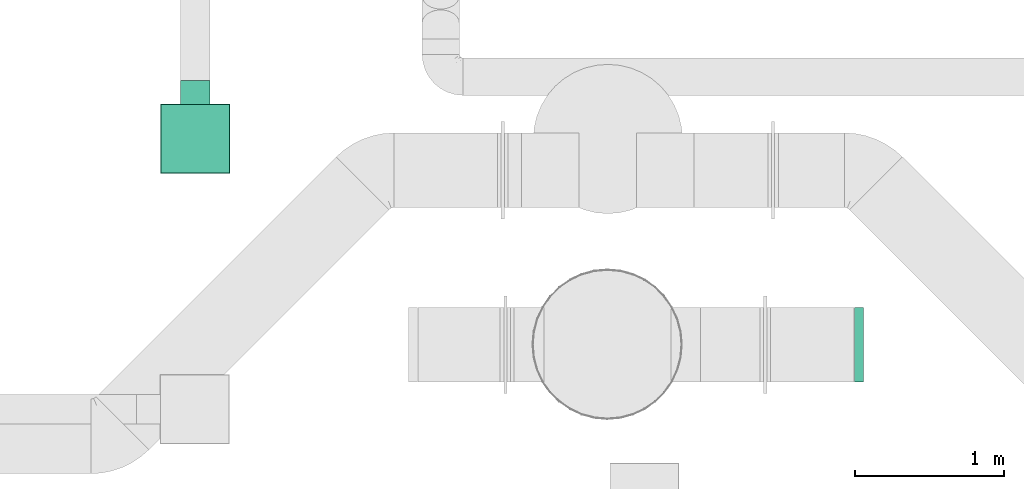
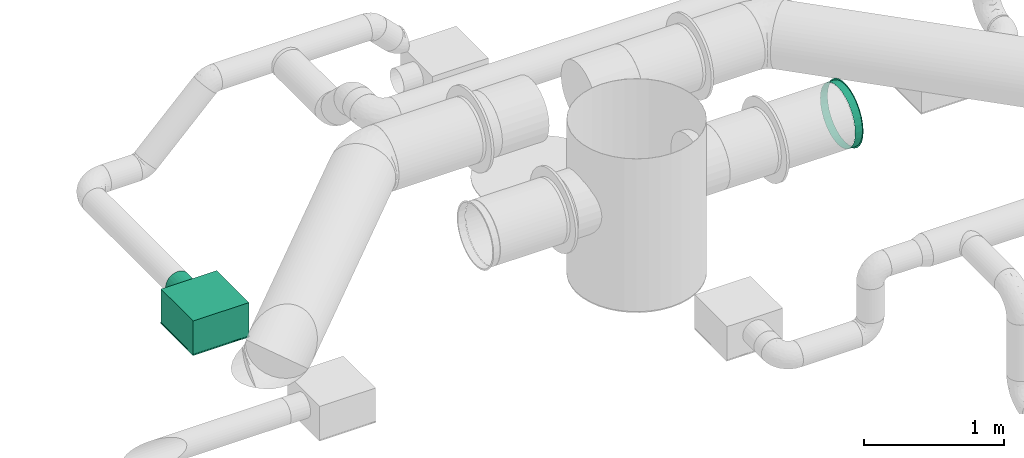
# One storey, part 10 of 31: 2 flow terminals.
"""IFC2X3 building model written with IfcOpenShell, lengths in millimetres."""

from ifc_helpers import new_model, entity, si_unit, converted_unit, derived_unit, direction, frame, origin_with_axes, place, context, subcontext, project, spatial, open_shell, surface_model, source, transform, mapped, type_object, element, save


model = new_model("IFC2X3")

# Units and contexts
model_context = context("Model", 3, precision=0.01, world=frame((0.0, 4.29681676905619e-09, 0.0)), true_north=direction((4.01073788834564e-13, 1.0)))
plan_context = context("Plan", 3, precision=0.01, world=frame((0.0, 4.29681676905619e-09, 0.0)), true_north=direction((4.01073788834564e-13, 1.0)))
body_context = subcontext(model_context, "Body", "Model", "MODEL_VIEW")
ifc_project = project(units=[converted_unit("PLANEANGLEUNIT", "DEGREE", entity("IfcPositiveLengthMeasure", 0.0174532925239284), si_unit("PLANEANGLEUNIT", "RADIAN"), dimensions=[0, 0, 0, 0, 0, 0, 0]), si_unit("AREAUNIT", "SQUARE_METRE"), si_unit("LENGTHUNIT", "METRE", prefix="MILLI"), si_unit("MASSUNIT", "GRAM", prefix="KILO"), si_unit("POWERUNIT", "WATT"), si_unit("PRESSUREUNIT", "PASCAL", prefix="KILO"), si_unit("FORCEUNIT", "NEWTON", prefix="KILO"), si_unit("ELECTRICVOLTAGEUNIT", "VOLT"), si_unit("ELECTRICCURRENTUNIT", "AMPERE"), si_unit("THERMODYNAMICTEMPERATUREUNIT", "DEGREE_CELSIUS"), si_unit("TIMEUNIT", "SECOND"), si_unit("VOLUMEUNIT", "CUBIC_METRE"), derived_unit("LINEARVELOCITYUNIT", [(si_unit("LENGTHUNIT", "METRE"), 1), (si_unit("TIMEUNIT", "SECOND"), -1)]), derived_unit("VOLUMETRICFLOWRATEUNIT", [(si_unit("VOLUMEUNIT", "CUBIC_METRE"), 1), (si_unit("TIMEUNIT", "SECOND"), -1)]), derived_unit("THERMALTRANSMITTANCEUNIT", [(si_unit("POWERUNIT", "WATT"), 1), (si_unit("THERMODYNAMICTEMPERATUREUNIT", "KELVIN"), -1), (si_unit("AREAUNIT", "SQUARE_METRE"), -1)]), derived_unit("SOUNDPRESSUREUNIT", [(si_unit("PRESSUREUNIT", "PASCAL"), 1)])], contexts=[model_context, plan_context])

# Site, building, storey
site_placement = place(None, frame((0.0, -4.29681676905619e-09, 0.0), z_axis=(0.0, 0.0, 1.0), x_axis=(1.0, 0.0, 0.0)))
site = spatial("IfcSite", under=ifc_project, at=site_placement, CompositionType="ELEMENT")
building_placement = place(site_placement, frame((0.0, 4.29681676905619e-09, 0.0), z_axis=(0.0, 0.0, 1.0), x_axis=(1.0, 0.0, 0.0)))
building = spatial("IfcBuilding", under=site, at=building_placement, Name="mc-building", CompositionType="ELEMENT")
storey_placement = place(building_placement, frame((0.0, 0.0, 210900.0), z_axis=(0.0, 0.0, 1.0), x_axis=(1.0, 0.0, 0.0)))
storey = spatial("IfcBuildingStorey", under=building, at=storey_placement, Name="Nivå F", CompositionType="ELEMENT", Elevation=210900.0)

# Flow terminals
air_terminal_type_1 = type_object("IfcAirTerminalType", Name="NS19-H-S-2-200 - 4-way", PredefinedType="NOTDEFINED")
shared_shape_1 = source(origin_with_axes(), body_context, "Body", "SurfaceModel", [
    surface_model("IfcShellBasedSurfaceModel", [(-231.99999, 231.99999, 0.0), (-231.99999, -231.99999, 0.0), (231.99999, -231.99999, 0.0), (231.99999, 231.99999, 0.0), (231.99999, 231.99999, -10.0), (231.99999, -231.99999, -10.0), (-231.99999, -231.99999, -10.0), (-231.99999, 231.99999, -10.0), (-230.0, 230.0, 289.99999), (-230.0, -230.0, 289.99999), (230.0, -230.0, 289.99999), (230.0, 230.0, 289.99999), (230.0, 230.0, 0.0), (230.0, -230.0, 0.0), (-230.0, -230.0, 0.0), (-230.0, 230.0, 0.0), (-230.0, 50.0, 78.39746), (-230.0, 70.71068, 94.28932), (-230.0, 49.9, 78.57067), (-230.0, 25.83014, 68.6006), (-230.0, 0.0, 65.2), (-230.0, 25.8819, 68.40742), (-230.0, 0.0, 65.0), (-230.0, 70.56926, 94.43075), (-230.0, 96.59259, 139.1181), (-230.0, 99.8, 164.99999), (-230.0, 96.39939, 139.16986), (-230.0, 100.0, 164.99999), (-230.0, 86.60254, 115.0), (-230.0, 86.42934, 115.1), (-230.0, -25.83014, 68.6006), (-230.0, -25.8819, 68.40742), (-230.0, -49.9, 78.57067), (-230.0, -70.71068, 94.28932), (-230.0, -50.0, 78.39746), (-230.0, -70.56926, 94.43075), (-230.0, -86.42934, 115.1), (-230.0, -86.60254, 115.0), (-230.0, -96.39939, 139.16986), (-230.0, -96.59259, 139.1181), (-230.0, -99.8, 164.99999), (-230.0, -100.0, 164.99999), (-230.0, 96.59259, 190.8819), (-230.0, 96.39939, 190.83014), (-230.0, 86.42934, 214.9), (-230.0, 86.60254, 214.99999), (-230.0, 70.56926, 235.56925), (-230.0, 70.71068, 235.71069), (-230.0, 50.0, 251.60254), (-230.0, 49.9, 251.42933), (-230.0, 25.83014, 261.3994), (-230.0, 25.8819, 261.59259), (-230.0, 0.0, 264.80001), (-230.0, 0.0, 264.99999), (-230.0, -86.60254, 214.99999), (-230.0, -86.42934, 214.9), (-230.0, -70.71068, 235.71069), (-230.0, -70.56926, 235.56925), (-230.0, -96.59259, 190.8819), (-230.0, -96.39939, 190.83014), (-230.0, -25.83014, 261.3994), (-230.0, -25.8819, 261.59259), (-230.0, -49.9, 251.42933), (-230.0, -50.0, 251.60254), (-390.0, 50.0, 251.60254), (-390.0, 70.71068, 235.71069), (-390.0, 49.9, 251.42933), (-390.0, 25.83014, 261.3994), (-390.0, 0.0, 264.80001), (-390.0, 25.8819, 261.59259), (-390.0, 0.0, 264.99999), (-390.0, 70.56926, 235.56925), (-390.0, 96.59259, 190.8819), (-390.0, 99.8, 164.99999), (-390.0, 96.39939, 190.83014), (-390.0, 100.0, 164.99999), (-390.0, 86.60254, 214.99999), (-390.0, 86.42934, 214.9), (-390.0, -25.83014, 261.3994), (-390.0, -25.8819, 261.59259), (-390.0, -49.9, 251.42933), (-390.0, -70.71068, 235.71069), (-390.0, -50.0, 251.60254), (-390.0, -70.56926, 235.56925), (-390.0, -86.42934, 214.9), (-390.0, -86.60254, 214.99999), (-390.0, -96.39939, 190.83014), (-390.0, -96.59259, 190.8819), (-390.0, -99.8, 164.99999), (-390.0, -100.0, 164.99999), (-390.0, 96.59259, 139.1181), (-390.0, 96.39939, 139.16986), (-390.0, 86.42934, 115.1), (-390.0, 86.60254, 115.0), (-390.0, 70.56926, 94.43075), (-390.0, 70.71068, 94.28932), (-390.0, 50.0, 78.39746), (-390.0, 49.9, 78.57067), (-390.0, 25.83014, 68.6006), (-390.0, 25.8819, 68.40742), (-390.0, 0.0, 65.2), (-390.0, 0.0, 65.0), (-390.0, -86.60254, 115.0), (-390.0, -86.42934, 115.1), (-390.0, -70.71068, 94.28932), (-390.0, -70.56926, 94.43075), (-390.0, -96.59259, 139.1181), (-390.0, -96.39939, 139.16986), (-390.0, -25.83014, 68.6006), (-390.0, -25.8819, 68.40742), (-390.0, -49.9, 78.57067), (-390.0, -50.0, 78.39746)], [open_shell([[[0, 1, 2]], [[2, 3, 0]], [[4, 5, 6]], [[6, 7, 4]], [[2, 1, 6]], [[6, 5, 2]], [[3, 2, 5]], [[5, 4, 3]], [[0, 3, 4]], [[4, 7, 0]], [[1, 0, 7]], [[7, 6, 1]], [[8, 9, 10]], [[10, 11, 8]], [[12, 13, 14]], [[14, 15, 12]], [[10, 9, 13]], [[14, 13, 9]], [[11, 10, 12]], [[13, 12, 10]], [[8, 11, 15]], [[12, 15, 11]], [[9, 8, 14]], [[15, 14, 8]], [[16, 17, 18]], [[16, 18, 19]], [[20, 21, 19]], [[21, 20, 22]], [[19, 21, 16]], [[18, 17, 23]], [[24, 25, 26]], [[25, 24, 27]], [[24, 26, 28]], [[23, 28, 29]], [[28, 23, 17]], [[29, 28, 26]], [[22, 30, 31]], [[31, 30, 32]], [[33, 34, 35]], [[32, 34, 31]], [[32, 35, 34]], [[22, 20, 30]], [[36, 37, 33]], [[37, 36, 38]], [[36, 33, 35]], [[39, 38, 40]], [[38, 39, 37]], [[39, 40, 41]], [[27, 42, 43]], [[43, 42, 44]], [[44, 45, 46]], [[45, 44, 42]], [[46, 45, 47]], [[47, 48, 49]], [[49, 48, 50]], [[50, 51, 52]], [[51, 50, 48]], [[52, 51, 53]], [[49, 46, 47]], [[54, 55, 56]], [[56, 55, 57]], [[55, 54, 58]], [[41, 59, 58]], [[58, 59, 55]], [[41, 40, 59]], [[60, 53, 61]], [[60, 61, 62]], [[57, 63, 56]], [[57, 62, 63]], [[63, 62, 61]], [[52, 53, 60]], [[43, 25, 27]], [[64, 65, 66]], [[64, 66, 67]], [[68, 69, 67]], [[69, 68, 70]], [[67, 69, 64]], [[66, 65, 71]], [[72, 73, 74]], [[73, 72, 75]], [[72, 74, 76]], [[71, 76, 77]], [[76, 71, 65]], [[77, 76, 74]], [[70, 78, 79]], [[79, 78, 80]], [[81, 82, 83]], [[80, 82, 79]], [[80, 83, 82]], [[70, 68, 78]], [[84, 85, 81]], [[85, 84, 86]], [[84, 81, 83]], [[87, 86, 88]], [[86, 87, 85]], [[87, 88, 89]], [[75, 90, 91]], [[91, 90, 92]], [[92, 93, 94]], [[93, 92, 90]], [[94, 93, 95]], [[95, 96, 97]], [[97, 96, 98]], [[98, 99, 100]], [[99, 98, 96]], [[100, 99, 101]], [[97, 94, 95]], [[102, 103, 104]], [[104, 103, 105]], [[103, 102, 106]], [[89, 107, 106]], [[106, 107, 103]], [[89, 88, 107]], [[108, 101, 109]], [[108, 109, 110]], [[105, 111, 104]], [[105, 110, 111]], [[111, 110, 109]], [[100, 101, 108]], [[91, 73, 75]], [[39, 106, 102]], [[104, 37, 102]], [[34, 111, 109]], [[104, 111, 33]], [[31, 109, 101]], [[106, 41, 89]], [[106, 39, 41]], [[102, 37, 39]], [[104, 33, 37]], [[34, 33, 111]], [[109, 31, 34]], [[101, 22, 31]], [[21, 99, 96]], [[95, 16, 96]], [[28, 93, 90]], [[95, 93, 17]], [[24, 90, 75]], [[99, 21, 22]], [[96, 16, 21]], [[95, 17, 16]], [[93, 28, 17]], [[24, 28, 90]], [[75, 27, 24]], [[99, 22, 101]], [[75, 72, 42]], [[48, 64, 69]], [[64, 47, 65]], [[51, 69, 70]], [[72, 45, 42]], [[42, 27, 75]], [[76, 47, 45]], [[76, 65, 47]], [[47, 64, 48]], [[69, 51, 48]], [[76, 45, 72]], [[70, 53, 51]], [[61, 79, 82]], [[81, 63, 82]], [[54, 85, 87]], [[81, 85, 56]], [[58, 87, 89]], [[79, 61, 53]], [[82, 63, 61]], [[81, 56, 63]], [[85, 54, 56]], [[58, 54, 87]], [[89, 41, 58]], [[79, 53, 70]], [[103, 107, 38]], [[103, 36, 105]], [[108, 110, 32]], [[35, 110, 105]], [[100, 108, 30]], [[88, 40, 107]], [[40, 38, 107]], [[38, 36, 103]], [[36, 35, 105]], [[110, 35, 32]], [[32, 30, 108]], [[30, 20, 100]], [[97, 98, 19]], [[97, 18, 94]], [[91, 92, 29]], [[23, 92, 94]], [[73, 91, 26]], [[20, 19, 98]], [[19, 18, 97]], [[18, 23, 94]], [[23, 29, 92]], [[91, 29, 26]], [[26, 25, 73]], [[100, 20, 98]], [[43, 74, 73]], [[67, 66, 49]], [[71, 46, 66]], [[68, 67, 50]], [[43, 44, 74]], [[73, 25, 43]], [[44, 46, 77]], [[46, 71, 77]], [[49, 66, 46]], [[49, 50, 67]], [[74, 44, 77]], [[50, 52, 68]], [[80, 78, 60]], [[80, 62, 83]], [[86, 84, 55]], [[57, 84, 83]], [[88, 86, 59]], [[52, 60, 78]], [[60, 62, 80]], [[62, 57, 83]], [[57, 55, 84]], [[86, 55, 59]], [[59, 40, 88]], [[68, 52, 78]]])]),
])
flow_terminal_1_placement = place(storey_placement, frame((717200.44584, 440425.23198, 2800.0), z_axis=(0.0, 0.0, 1.0), x_axis=(0.0, -1.0, 0.0)))
element("IfcFlowTerminal", 1, at=flow_terminal_1_placement, inside=storey, type_object=air_terminal_type_1, Name="NS19-H-S-2-200 - 4-way", context=body_context, shape_type="MappedRepresentation", body=[
    mapped(shared_shape_1, transform((0.0, 0.0, 0.0), scale=1.0)),
])
air_terminal_type_2 = type_object("IfcAirTerminalType", Name="EKO-NR-500-1-3", PredefinedType="NOTDEFINED")
shared_shape_2 = source(origin_with_axes(), body_context, "Body", "SurfaceModel", [
    surface_model("IfcShellBasedSurfaceModel", [(60.1, -131.25, 227.33167), (60.1, -175.64678, 195.07552), (60.1, -155.87244, 195.45787), (60.1, -195.45787, 155.87244), (60.1, -108.47093, 225.24221), (60.1, -27.43872, 261.06199), (60.1, -81.11696, 249.65233), (60.1, -55.63023, 243.73198), (60.1, 0.0, 250.0), (60.1, -243.73198, 55.63023), (60.1, -256.76374, 54.57682), (60.1, -250.0, 0.0), (60.1, -239.80568, 106.76836), (60.1, -262.5, 0.0), (60.1, -212.36696, 154.29363), (60.1, -225.24221, 108.47093), (60.1, 27.43872, 261.06199), (60.1, 55.63023, 243.73198), (60.1, 81.11696, 249.65233), (60.1, 131.25, 227.33167), (60.1, 108.47093, 225.24221), (60.1, 155.87244, 195.45787), (60.1, 175.64678, 195.07552), (60.1, 195.45787, 155.87244), (60.1, 212.36696, 154.29363), (60.1, 225.24221, 108.47093), (60.1, 239.80568, 106.76836), (60.1, 243.73198, 55.63023), (60.1, 256.76374, 54.57682), (60.1, 250.0, 0.0), (60.1, 262.5, 0.0), (60.1, -256.76374, -54.57682), (60.1, -243.73198, -55.63023), (60.1, -239.80568, -106.76836), (60.1, -225.24221, -108.47093), (60.1, -212.36696, -154.29363), (60.1, -195.45787, -155.87244), (60.1, -175.64678, -195.07552), (60.1, -131.25, -227.33167), (60.1, -155.87244, -195.45787), (60.1, -108.47093, -225.24221), (60.1, -55.63023, -243.73198), (60.1, -81.11696, -249.65233), (60.1, -27.43872, -261.06199), (60.1, 0.0, -250.0), (60.1, 225.24221, -108.47093), (60.1, 195.45787, -155.87244), (60.1, 212.36696, -154.29363), (60.1, 175.64678, -195.07552), (60.1, 239.80568, -106.76836), (60.1, 256.76374, -54.57682), (60.1, 243.73198, -55.63023), (60.1, 55.63023, -243.73198), (60.1, 81.11696, -249.65233), (60.1, 108.47093, -225.24221), (60.1, 27.43872, -261.06199), (60.1, 155.87244, -195.45787), (60.1, 131.25, -227.33167), (59.9, -131.25, -227.33167), (59.9, -175.64678, -195.07552), (59.9, -155.87244, -195.45787), (59.9, -195.45787, -155.87244), (59.9, -108.47093, -225.24221), (59.9, -27.43872, -261.06199), (59.9, -81.11696, -249.65233), (59.9, -55.63023, -243.73198), (59.9, 0.0, -250.0), (59.9, -243.73198, -55.63023), (59.9, -256.76374, -54.57682), (59.9, -250.0, 0.0), (59.9, -239.80568, -106.76836), (59.9, -262.5, 0.0), (59.9, -212.36696, -154.29363), (59.9, -225.24221, -108.47093), (59.9, 27.43872, -261.06199), (59.9, 55.63023, -243.73198), (59.9, 81.11696, -249.65233), (59.9, 131.25, -227.33167), (59.9, 108.47093, -225.24221), (59.9, 155.87244, -195.45787), (59.9, 175.64678, -195.07552), (59.9, 195.45787, -155.87244), (59.9, 212.36696, -154.29363), (59.9, 225.24221, -108.47093), (59.9, 239.80568, -106.76836), (59.9, 243.73198, -55.63023), (59.9, 256.76374, -54.57682), (59.9, 250.0, 0.0), (59.9, 262.5, 0.0), (59.9, -256.76374, 54.57682), (59.9, -243.73198, 55.63023), (59.9, -239.80568, 106.76836), (59.9, -225.24221, 108.47093), (59.9, -212.36696, 154.29363), (59.9, -195.45787, 155.87244), (59.9, -175.64678, 195.07552), (59.9, -131.25, 227.33167), (59.9, -155.87244, 195.45787), (59.9, -108.47093, 225.24221), (59.9, -55.63023, 243.73198), (59.9, -81.11696, 249.65233), (59.9, -27.43872, 261.06199), (59.9, 0.0, 250.0), (59.9, 225.24221, 108.47093), (59.9, 195.45787, 155.87244), (59.9, 212.36696, 154.29363), (59.9, 175.64678, 195.07552), (59.9, 239.80568, 106.76836), (59.9, 256.76374, 54.57682), (59.9, 243.73198, 55.63023), (59.9, 55.63023, 243.73198), (59.9, 81.11696, 249.65233), (59.9, 108.47093, 225.24221), (59.9, 27.43872, 261.06199), (59.9, 155.87244, 195.45787), (59.9, 131.25, 227.33167), (60.0, 108.38415, -225.06203), (60.0, 108.47093, -225.24221), (60.0, 155.87244, -195.45787), (60.0, 155.74776, -195.30151), (60.0, 195.45787, -155.87244), (60.0, 0.0, -249.8), (60.0, 55.63023, -243.73198), (60.0, 55.58573, -243.53699), (60.0, 0.0, -250.0), (60.0, 243.73198, -55.63023), (60.0, 249.8, 0.0), (60.0, 243.53699, -55.58573), (60.0, 250.0, 0.0), (60.0, 225.24221, -108.47093), (60.0, 195.30151, -155.74776), (60.0, 225.06203, -108.38415), (60.0, -55.58573, -243.53699), (60.0, -55.63023, -243.73198), (60.0, -108.38415, -225.06203), (60.0, -108.47093, -225.24221), (60.0, -155.74776, -195.30151), (60.0, -155.87244, -195.45787), (60.0, -195.30151, -155.74776), (60.0, -195.45787, -155.87244), (60.0, -225.06203, -108.38415), (60.0, -225.24221, -108.47093), (60.0, -243.73198, -55.63023), (60.0, -243.53699, -55.58573), (60.0, -249.8, 0.0), (60.0, -250.0, 0.0), (60.0, 243.73198, 55.63023), (60.0, 243.53699, 55.58573), (60.0, 225.06203, 108.38415), (60.0, 225.24221, 108.47093), (60.0, 195.30151, 155.74776), (60.0, 195.45787, 155.87244), (60.0, 155.74776, 195.30151), (60.0, 108.38415, 225.06203), (60.0, 155.87244, 195.45787), (60.0, 108.47093, 225.24221), (60.0, 55.58573, 243.53699), (60.0, 55.63023, 243.73198), (60.0, 0.0, 249.8), (60.0, 0.0, 250.0), (60.0, -225.24221, 108.47093), (60.0, -225.06203, 108.38415), (60.0, -195.30151, 155.74776), (60.0, -195.45787, 155.87244), (60.0, -155.87244, 195.45787), (60.0, -243.53699, 55.58573), (60.0, -243.73198, 55.63023), (60.0, -55.58573, 243.53699), (60.0, -55.63023, 243.73198), (60.0, -108.38415, 225.06203), (60.0, -155.74776, 195.30151), (60.0, -108.47093, 225.24221), (0.0, 108.38415, 225.06203), (0.0, 108.47093, 225.24221), (0.0, 155.87244, 195.45787), (0.0, 155.74776, 195.30151), (0.0, 195.45787, 155.87244), (0.0, 0.0, 249.8), (0.0, 55.63023, 243.73198), (0.0, 55.58573, 243.53699), (0.0, 0.0, 250.0), (0.0, 243.73198, 55.63023), (0.0, 249.8, 0.0), (0.0, 243.53699, 55.58573), (0.0, 250.0, 0.0), (0.0, 225.24221, 108.47093), (0.0, 195.30151, 155.74776), (0.0, 225.06203, 108.38415), (0.0, -55.58573, 243.53699), (0.0, -55.63023, 243.73198), (0.0, -108.38415, 225.06203), (0.0, -108.47093, 225.24221), (0.0, -155.74776, 195.30151), (0.0, -155.87244, 195.45787), (0.0, -195.30151, 155.74776), (0.0, -195.45787, 155.87244), (0.0, -225.06203, 108.38415), (0.0, -225.24221, 108.47093), (0.0, -243.73198, 55.63023), (0.0, -243.53699, 55.58573), (0.0, -249.8, 0.0), (0.0, -250.0, 0.0), (0.0, 243.73198, -55.63023), (0.0, 243.53699, -55.58573), (0.0, 225.06203, -108.38415), (0.0, 225.24221, -108.47093), (0.0, 195.30151, -155.74776), (0.0, 195.45787, -155.87244), (0.0, 155.74776, -195.30151), (0.0, 108.38415, -225.06203), (0.0, 155.87244, -195.45787), (0.0, 108.47093, -225.24221), (0.0, 55.58573, -243.53699), (0.0, 55.63023, -243.73198), (0.0, 0.0, -249.8), (0.0, 0.0, -250.0), (0.0, -225.24221, -108.47093), (0.0, -225.06203, -108.38415), (0.0, -195.30151, -155.74776), (0.0, -195.45787, -155.87244), (0.0, -155.87244, -195.45787), (0.0, -243.53699, -55.58573), (0.0, -243.73198, -55.63023), (0.0, -55.58573, -243.53699), (0.0, -55.63023, -243.73198), (0.0, -108.38415, -225.06203), (0.0, -155.74776, -195.30151), (0.0, -108.47093, -225.24221)], [open_shell([[[0, 1, 2]], [[2, 1, 3]], [[0, 2, 4]], [[5, 6, 7]], [[4, 7, 6]], [[6, 0, 4]], [[8, 5, 7]], [[9, 10, 11]], [[10, 9, 12]], [[11, 10, 13]], [[3, 14, 15]], [[14, 3, 1]], [[15, 12, 9]], [[12, 15, 14]], [[16, 8, 17]], [[8, 16, 5]], [[16, 17, 18]], [[19, 18, 20]], [[20, 21, 19]], [[18, 17, 20]], [[19, 21, 22]], [[22, 23, 24]], [[22, 21, 23]], [[24, 25, 26]], [[25, 24, 23]], [[26, 27, 28]], [[27, 26, 25]], [[28, 29, 30]], [[29, 28, 27]], [[31, 32, 11]], [[32, 31, 33]], [[33, 34, 32]], [[34, 33, 35]], [[35, 36, 34]], [[36, 35, 37]], [[37, 38, 39]], [[39, 38, 40]], [[37, 39, 36]], [[41, 40, 42]], [[42, 43, 41]], [[40, 38, 42]], [[44, 41, 43]], [[45, 46, 47]], [[47, 46, 48]], [[45, 47, 49]], [[30, 29, 50]], [[51, 49, 50]], [[49, 51, 45]], [[29, 51, 50]], [[52, 53, 54]], [[53, 52, 55]], [[44, 55, 52]], [[55, 44, 43]], [[48, 56, 57]], [[56, 48, 46]], [[54, 57, 56]], [[57, 54, 53]], [[11, 13, 31]], [[58, 59, 60]], [[60, 59, 61]], [[58, 60, 62]], [[63, 64, 65]], [[62, 65, 64]], [[64, 58, 62]], [[66, 63, 65]], [[67, 68, 69]], [[68, 67, 70]], [[69, 68, 71]], [[61, 72, 73]], [[72, 61, 59]], [[73, 70, 67]], [[70, 73, 72]], [[74, 66, 75]], [[66, 74, 63]], [[74, 75, 76]], [[77, 76, 78]], [[78, 79, 77]], [[76, 75, 78]], [[77, 79, 80]], [[80, 81, 82]], [[80, 79, 81]], [[82, 83, 84]], [[83, 82, 81]], [[84, 85, 86]], [[85, 84, 83]], [[86, 87, 88]], [[87, 86, 85]], [[89, 90, 69]], [[90, 89, 91]], [[91, 92, 90]], [[92, 91, 93]], [[93, 94, 92]], [[94, 93, 95]], [[95, 96, 97]], [[97, 96, 98]], [[95, 97, 94]], [[99, 98, 100]], [[100, 101, 99]], [[98, 96, 100]], [[102, 99, 101]], [[103, 104, 105]], [[105, 104, 106]], [[103, 105, 107]], [[88, 87, 108]], [[109, 107, 108]], [[107, 109, 103]], [[87, 109, 108]], [[110, 111, 112]], [[111, 110, 113]], [[102, 113, 110]], [[113, 102, 101]], [[106, 114, 115]], [[114, 106, 104]], [[112, 115, 114]], [[115, 112, 111]], [[69, 71, 89]], [[11, 69, 9]], [[9, 90, 15]], [[2, 3, 94]], [[97, 4, 2]], [[92, 3, 15]], [[4, 98, 7]], [[3, 92, 94]], [[15, 90, 92]], [[9, 69, 90]], [[102, 8, 99]], [[7, 98, 99]], [[98, 4, 97]], [[2, 94, 97]], [[8, 7, 99]], [[112, 21, 20]], [[110, 20, 17]], [[109, 27, 25]], [[25, 23, 103]], [[104, 23, 21]], [[29, 27, 87]], [[114, 21, 112]], [[110, 17, 102]], [[112, 20, 110]], [[114, 104, 21]], [[104, 103, 23]], [[25, 103, 109]], [[109, 87, 27]], [[8, 102, 17]], [[29, 87, 51]], [[51, 85, 45]], [[56, 46, 81]], [[79, 54, 56]], [[83, 46, 45]], [[54, 78, 52]], [[46, 83, 81]], [[45, 85, 83]], [[51, 87, 85]], [[66, 44, 75]], [[52, 78, 75]], [[78, 54, 79]], [[56, 81, 79]], [[44, 52, 75]], [[41, 62, 40]], [[40, 60, 39]], [[67, 32, 34]], [[36, 73, 34]], [[36, 39, 61]], [[11, 32, 69]], [[65, 44, 66]], [[41, 65, 62]], [[40, 62, 60]], [[60, 61, 39]], [[61, 73, 36]], [[34, 73, 67]], [[67, 69, 32]], [[41, 44, 65]], [[68, 31, 71]], [[33, 68, 70]], [[70, 72, 35]], [[38, 59, 58]], [[58, 64, 42]], [[72, 59, 37]], [[64, 63, 43]], [[35, 33, 70]], [[33, 31, 68]], [[31, 13, 71]], [[42, 38, 58]], [[37, 59, 38]], [[37, 35, 72]], [[42, 64, 43]], [[63, 55, 43]], [[57, 76, 77]], [[77, 80, 57]], [[74, 76, 53]], [[84, 86, 49]], [[47, 82, 84]], [[48, 80, 82]], [[88, 30, 86]], [[53, 76, 57]], [[80, 48, 57]], [[53, 55, 74]], [[82, 47, 48]], [[84, 49, 47]], [[50, 49, 86]], [[30, 50, 86]], [[74, 55, 63]], [[108, 28, 88]], [[26, 108, 107]], [[107, 105, 24]], [[19, 106, 115]], [[115, 111, 18]], [[105, 106, 22]], [[111, 113, 16]], [[24, 26, 107]], [[26, 28, 108]], [[28, 30, 88]], [[18, 19, 115]], [[22, 106, 19]], [[22, 24, 105]], [[18, 111, 16]], [[113, 101, 16]], [[100, 96, 6]], [[100, 6, 101]], [[95, 0, 96]], [[91, 89, 12]], [[14, 93, 91]], [[93, 1, 95]], [[10, 89, 71]], [[95, 1, 0]], [[0, 6, 96]], [[5, 101, 6]], [[14, 1, 93]], [[91, 12, 14]], [[10, 12, 89]], [[71, 13, 10]], [[101, 5, 16]], [[116, 117, 118]], [[119, 118, 120]], [[116, 118, 119]], [[121, 122, 123]], [[122, 121, 124]], [[123, 122, 117]], [[117, 116, 123]], [[125, 126, 127]], [[126, 125, 128]], [[125, 127, 129]], [[120, 130, 119]], [[130, 120, 131]], [[129, 131, 120]], [[131, 129, 127]], [[124, 132, 133]], [[133, 132, 134]], [[135, 134, 136]], [[134, 135, 133]], [[137, 136, 138]], [[136, 137, 135]], [[124, 121, 132]], [[139, 138, 140]], [[138, 139, 137]], [[139, 140, 141]], [[142, 141, 143]], [[143, 144, 142]], [[143, 141, 140]], [[142, 144, 145]], [[128, 146, 147]], [[147, 146, 148]], [[148, 149, 150]], [[149, 148, 146]], [[150, 151, 152]], [[151, 150, 149]], [[153, 152, 154]], [[154, 152, 151]], [[153, 154, 155]], [[153, 155, 156]], [[157, 158, 156]], [[158, 157, 159]], [[155, 157, 156]], [[160, 161, 162]], [[163, 162, 164]], [[160, 162, 163]], [[145, 165, 166]], [[166, 165, 161]], [[160, 166, 161]], [[145, 144, 165]], [[167, 159, 168]], [[167, 168, 169]], [[170, 164, 162]], [[164, 170, 171]], [[169, 171, 170]], [[171, 169, 168]], [[158, 159, 167]], [[147, 126, 128]], [[172, 173, 174]], [[175, 174, 176]], [[172, 174, 175]], [[177, 178, 179]], [[178, 177, 180]], [[179, 178, 173]], [[173, 172, 179]], [[181, 182, 183]], [[182, 181, 184]], [[181, 183, 185]], [[176, 186, 175]], [[186, 176, 187]], [[185, 187, 176]], [[187, 185, 183]], [[180, 188, 189]], [[189, 188, 190]], [[191, 190, 192]], [[190, 191, 189]], [[193, 192, 194]], [[192, 193, 191]], [[180, 177, 188]], [[195, 194, 196]], [[194, 195, 193]], [[195, 196, 197]], [[198, 197, 199]], [[199, 200, 198]], [[199, 197, 196]], [[198, 200, 201]], [[184, 202, 203]], [[203, 202, 204]], [[204, 205, 206]], [[205, 204, 202]], [[206, 207, 208]], [[207, 206, 205]], [[209, 208, 210]], [[210, 208, 207]], [[209, 210, 211]], [[209, 211, 212]], [[213, 214, 212]], [[214, 213, 215]], [[211, 213, 212]], [[216, 217, 218]], [[219, 218, 220]], [[216, 218, 219]], [[201, 221, 222]], [[222, 221, 217]], [[216, 222, 217]], [[201, 200, 221]], [[223, 215, 224]], [[223, 224, 225]], [[226, 220, 218]], [[220, 226, 227]], [[225, 227, 226]], [[227, 225, 224]], [[214, 215, 223]], [[203, 182, 184]], [[222, 142, 201]], [[216, 141, 222]], [[137, 219, 220]], [[220, 227, 135]], [[216, 219, 139]], [[224, 133, 227]], [[139, 141, 216]], [[141, 142, 222]], [[142, 145, 201]], [[133, 135, 227]], [[137, 220, 135]], [[137, 139, 219]], [[133, 224, 124]], [[224, 215, 124]], [[215, 213, 122]], [[205, 202, 129]], [[120, 207, 205]], [[210, 207, 118]], [[125, 202, 184]], [[117, 211, 118]], [[211, 117, 122]], [[210, 118, 211]], [[211, 122, 213]], [[207, 120, 118]], [[205, 129, 120]], [[125, 129, 202]], [[184, 128, 125]], [[215, 122, 124]], [[181, 146, 184]], [[185, 149, 181]], [[154, 176, 174]], [[174, 173, 155]], [[185, 176, 151]], [[178, 157, 173]], [[151, 149, 185]], [[149, 146, 181]], [[146, 128, 184]], [[157, 155, 173]], [[154, 174, 155]], [[154, 151, 176]], [[157, 178, 159]], [[178, 180, 159]], [[171, 191, 193]], [[197, 198, 160]], [[163, 195, 197]], [[164, 193, 195]], [[201, 166, 198]], [[168, 159, 189]], [[189, 191, 168]], [[168, 191, 171]], [[164, 171, 193]], [[195, 163, 164]], [[197, 160, 163]], [[166, 160, 198]], [[201, 145, 166]], [[189, 159, 180]], [[200, 143, 221]], [[221, 140, 217]], [[226, 218, 136]], [[134, 225, 226]], [[138, 218, 217]], [[225, 132, 223]], [[217, 140, 138]], [[221, 143, 140]], [[200, 144, 143]], [[225, 134, 132]], [[134, 226, 136]], [[218, 138, 136]], [[121, 223, 132]], [[121, 214, 223]], [[123, 212, 214]], [[131, 203, 204]], [[204, 206, 130]], [[119, 206, 208]], [[182, 203, 127]], [[119, 209, 116]], [[212, 123, 116]], [[209, 119, 208]], [[209, 212, 116]], [[119, 130, 206]], [[130, 131, 204]], [[203, 131, 127]], [[127, 126, 182]], [[121, 123, 214]], [[182, 147, 183]], [[183, 148, 187]], [[175, 186, 152]], [[153, 172, 175]], [[150, 186, 187]], [[172, 156, 179]], [[187, 148, 150]], [[183, 147, 148]], [[182, 126, 147]], [[172, 153, 156]], [[153, 175, 152]], [[186, 150, 152]], [[158, 179, 156]], [[158, 177, 179]], [[192, 190, 169]], [[161, 199, 196]], [[196, 194, 162]], [[194, 192, 170]], [[199, 165, 200]], [[188, 158, 167]], [[167, 190, 188]], [[169, 190, 167]], [[192, 169, 170]], [[170, 162, 194]], [[162, 161, 196]], [[199, 161, 165]], [[165, 144, 200]], [[177, 158, 188]]])]),
])
flow_terminal_2_placement = place(storey_placement, frame((721617.13284, 439045.81002, 3950.0), z_axis=(0.0, 0.0, 1.0), x_axis=(1.0, 0.0, 0.0)))
element("IfcFlowTerminal", 2, at=flow_terminal_2_placement, inside=storey, type_object=air_terminal_type_2, Name="EKO-NR-500-1-3", context=body_context, shape_type="MappedRepresentation", body=[
    mapped(shared_shape_2, transform((0.0, 0.0, 0.0), scale=1.0)),
])

save(model, "model.ifc")
